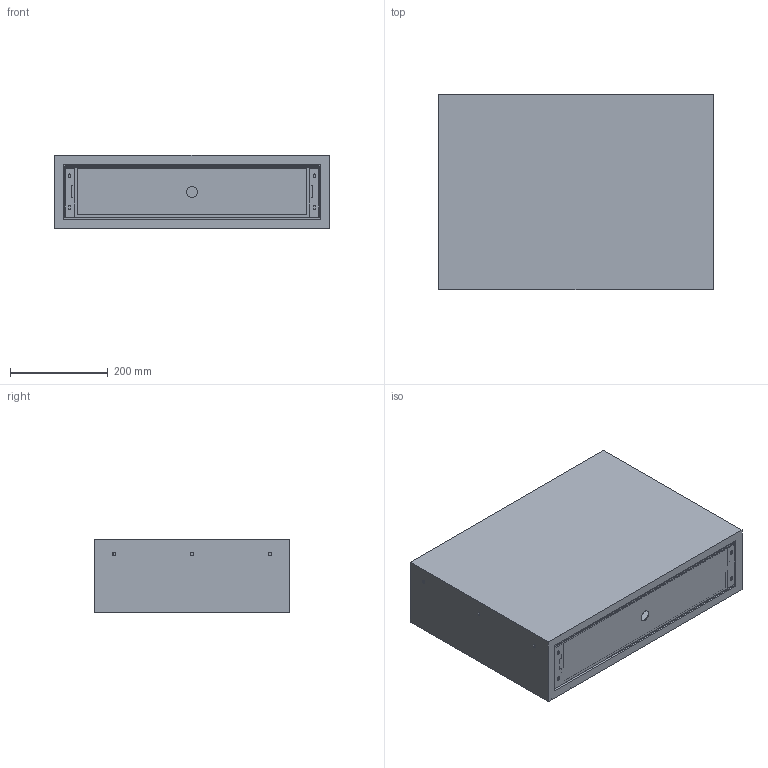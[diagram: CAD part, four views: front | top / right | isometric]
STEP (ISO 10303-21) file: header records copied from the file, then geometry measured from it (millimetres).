
FILE_DESCRIPTION(/* description */ ('STEP AP242 Edition 2','CAx-IF Rec.Pracs.---Representation and Presentation of Product Manufacturing Information (PMI)---4.0---2014-10-13','CAx-IF Rec.Pracs.---3D Tessellated Geometry---0.4---2014-09-14','2;1','CAx-IF Rec.Pracs.---User Defined Attributes---1.5---2016-08-15'),/* implementation_level */ '2;1');
FILE_NAME(/* name */ '6a16d78ee054ca3c19cba314',/* time_stamp */ '2026-05-27T11:37:52Z',/* author */ (''),/* organization */ (''),/* preprocessor_version */ 'ST-DEVELOPER v20',/* originating_system */ 'ONSHAPE BY PTC INC, 1.215',/* authorisation */ ' ');
FILE_SCHEMA (('AP242_MANAGED_MODEL_BASED_3D_ENGINEERING_MIM_LF { 1 0 10303 442 3 1 4 }'));
Length unit declared in the file: millimetre
Products named in the file (17): 600; Part 4; Part 1; Part 5; Part 7; Part 6; Part 3; Part 2; 112 350 assembly-Mirrored <1>; 112 350 assembly <1>; Part 8
Assembly tree (18 placements, depth 3):
  600
    Part 4
    Part 1
    Part 5
    Part 7
    Part 6
    Part 3
    Part 2
    112 350 assembly-Mirrored <1>
      Part 1
      Part 1
      Part 2
      Part 3
    112 350 assembly <1>
      Part 1
      Part 1
      Part 3
      Part 2
    Part 8
Bounding box: 562 x 400 x 150 mm (x, y, z)
Volume: 6744482.4 mm3; surface area: 3801648.1 mm2
Topology: 16 solids, 16 shells, 763 faces, 2080 edges, 1357 vertices
Faces by surface type: plane 406, cylinder 299, torus 40, bspline 14, sphere 4
Full cylindrical faces by diameter (mm): 4 x8, 4.4 x4, 4.45 x4, 4.5 x6, 4.9 x2, 5.1 x2, 5.15 x2, 6 x4, 6.4 x4, 22 x1
Entity records: 23308 total; most frequent: CARTESIAN_POINT 4628, DIRECTION 3799, ORIENTED_EDGE 3738, EDGE_CURVE 1869, LINE 1277, VECTOR 1277, AXIS2_PLACEMENT_3D 1261, VERTEX_POINT 1250
